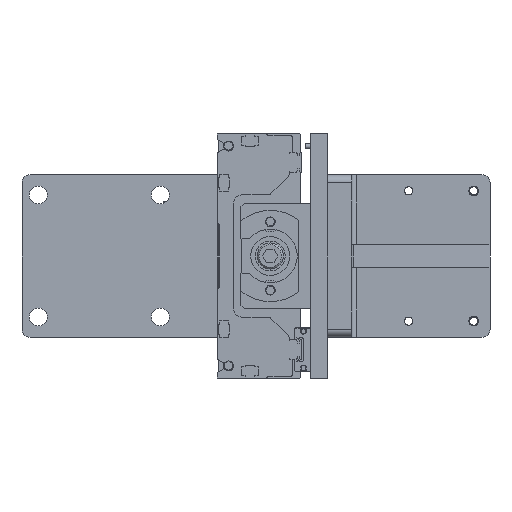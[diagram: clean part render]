
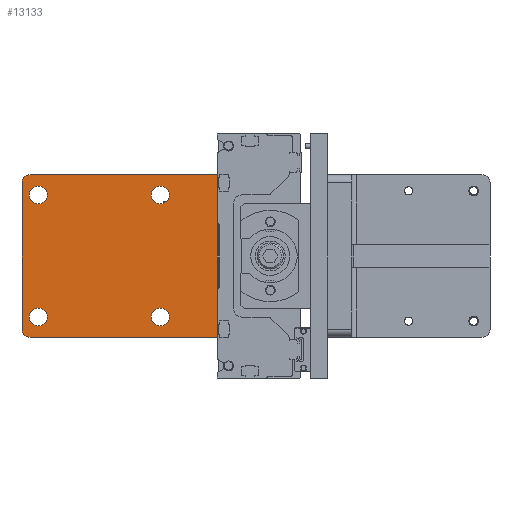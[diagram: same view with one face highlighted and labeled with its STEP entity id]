
A CAD part, front view. The second image highlights one B-rep face of the part: STEP entity #13133.
In plain terms, the highlighted planar face has unit normal (0, -1, 0).
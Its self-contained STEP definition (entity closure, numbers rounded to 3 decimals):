
#183 = VERTEX_POINT ( 'NONE', #29105 ) ;
#198 = LINE ( 'NONE', #31826, #12555 ) ;
#472 = CARTESIAN_POINT ( 'NONE',  ( -44.111, 7.917, 176.833 ) ) ;
#778 = ORIENTED_EDGE ( 'NONE', *, *, #3087, .F. ) ;
#899 = EDGE_LOOP ( 'NONE', ( #28965, #17130 ) ) ;
#1162 = CARTESIAN_POINT ( 'NONE',  ( -44.111, 7.917, 165.833 ) ) ;
#1206 = AXIS2_PLACEMENT_3D ( 'NONE', #7082, #7300, #30235 ) ;
#1543 = EDGE_CURVE ( 'NONE', #25225, #15404, #198, .T. ) ;
#1848 = DIRECTION ( 'NONE',  ( 0., 1., 0. ) ) ;
#1888 = CARTESIAN_POINT ( 'NONE',  ( -54.111, 7.917, 163.833 ) ) ;
#1990 = VERTEX_POINT ( 'NONE', #26850 ) ;
#2746 = DIRECTION ( 'NONE',  ( 0., -1., 0. ) ) ;
#3087 = EDGE_CURVE ( 'NONE', #19202, #1990, #14899, .T. ) ;
#3443 = DIRECTION ( 'NONE',  ( 0., 1., 0. ) ) ;
#3452 = CARTESIAN_POINT ( 'NONE',  ( 30.889, 7.917, 165.833 ) ) ;
#3548 = ORIENTED_EDGE ( 'NONE', *, *, #8319, .F. ) ;
#3560 = EDGE_CURVE ( 'NONE', #11545, #18002, #3675, .T. ) ;
#3675 = CIRCLE ( 'NONE', #26015, 5. ) ;
#4361 = LINE ( 'NONE', #7610, #30809 ) ;
#4586 = CARTESIAN_POINT ( 'NONE',  ( -44.111, 7.917, 171.333 ) ) ;
#4842 = CARTESIAN_POINT ( 'NONE',  ( 65.889, 7.917, 158.833 ) ) ;
#5539 = DIRECTION ( 'NONE',  ( 0., -1., 0. ) ) ;
#5926 = VERTEX_POINT ( 'NONE', #3452 ) ;
#6228 = DIRECTION ( 'NONE',  ( 0., -1., 0. ) ) ;
#6897 = EDGE_CURVE ( 'NONE', #15404, #16232, #32446, .T. ) ;
#6993 = DIRECTION ( 'NONE',  ( 0., 0., 1. ) ) ;
#7082 = CARTESIAN_POINT ( 'NONE',  ( 30.889, 7.917, 171.333 ) ) ;
#7139 = EDGE_CURVE ( 'NONE', #16487, #21909, #23599, .T. ) ;
#7208 = VERTEX_POINT ( 'NONE', #1162 ) ;
#7300 = DIRECTION ( 'NONE',  ( 0., -1., 0. ) ) ;
#7610 = CARTESIAN_POINT ( 'NONE',  ( -54.111, 7.917, 258.833 ) ) ;
#8042 = CARTESIAN_POINT ( 'NONE',  ( -44.111, 7.917, 171.333 ) ) ;
#8093 = AXIS2_PLACEMENT_3D ( 'NONE', #32848, #12105, #22624 ) ;
#8261 = EDGE_LOOP ( 'NONE', ( #30343, #18101 ) ) ;
#8319 = EDGE_CURVE ( 'NONE', #9406, #7208, #27520, .T. ) ;
#8520 = AXIS2_PLACEMENT_3D ( 'NONE', #8042, #10705, #23472 ) ;
#8896 = CARTESIAN_POINT ( 'NONE',  ( -44.111, 7.917, 246.333 ) ) ;
#9047 = AXIS2_PLACEMENT_3D ( 'NONE', #8896, #26372, #11463 ) ;
#9406 = VERTEX_POINT ( 'NONE', #472 ) ;
#9443 = CARTESIAN_POINT ( 'NONE',  ( -49.111, 7.917, 253.833 ) ) ;
#9746 = DIRECTION ( 'NONE',  ( 0., -1., 0. ) ) ;
#9779 = EDGE_CURVE ( 'NONE', #18002, #14165, #27816, .T. ) ;
#10010 = DIRECTION ( 'NONE',  ( 0., -1., 0. ) ) ;
#10705 = DIRECTION ( 'NONE',  ( 0., -1., 0. ) ) ;
#10771 = CARTESIAN_POINT ( 'NONE',  ( -49.111, 7.917, 258.833 ) ) ;
#11463 = DIRECTION ( 'NONE',  ( 0., 0., 1. ) ) ;
#11545 = VERTEX_POINT ( 'NONE', #17427 ) ;
#12056 = FACE_OUTER_BOUND ( 'NONE', #31758, .T. ) ;
#12063 = ORIENTED_EDGE ( 'NONE', *, *, #6897, .F. ) ;
#12099 = EDGE_CURVE ( 'NONE', #25225, #14165, #19657, .T. ) ;
#12105 = DIRECTION ( 'NONE',  ( 0., 1., 0. ) ) ;
#12555 = VECTOR ( 'NONE', #13888, 1000. ) ;
#13133 = ADVANCED_FACE ( 'NONE', ( #12056, #24505, #31694, #26076, #28077 ), #22280, .F. ) ;
#13518 = EDGE_CURVE ( 'NONE', #183, #5926, #18398, .T. ) ;
#13888 = DIRECTION ( 'NONE',  ( -1., 0., 0. ) ) ;
#14162 = EDGE_CURVE ( 'NONE', #16232, #11545, #4361, .T. ) ;
#14165 = VERTEX_POINT ( 'NONE', #30639 ) ;
#14899 = CIRCLE ( 'NONE', #9047, 5.5 ) ;
#15370 = DIRECTION ( 'NONE',  ( 0., 0., 1. ) ) ;
#15404 = VERTEX_POINT ( 'NONE', #26556 ) ;
#15420 = ORIENTED_EDGE ( 'NONE', *, *, #3560, .F. ) ;
#16150 = CARTESIAN_POINT ( 'NONE',  ( -49.111, 7.917, 163.833 ) ) ;
#16232 = VERTEX_POINT ( 'NONE', #1888 ) ;
#16454 = DIRECTION ( 'NONE',  ( 0., 0., 1. ) ) ;
#16487 = VERTEX_POINT ( 'NONE', #31737 ) ;
#16595 = AXIS2_PLACEMENT_3D ( 'NONE', #16150, #3443, #29253 ) ;
#17130 = ORIENTED_EDGE ( 'NONE', *, *, #18843, .F. ) ;
#17427 = CARTESIAN_POINT ( 'NONE',  ( -54.111, 7.917, 253.833 ) ) ;
#17802 = CARTESIAN_POINT ( 'NONE',  ( 30.889, 7.917, 246.333 ) ) ;
#17828 = CARTESIAN_POINT ( 'NONE',  ( 65.889, 7.917, 258.833 ) ) ;
#18002 = VERTEX_POINT ( 'NONE', #10771 ) ;
#18101 = ORIENTED_EDGE ( 'NONE', *, *, #7139, .F. ) ;
#18149 = DIRECTION ( 'NONE',  ( 0., 0., 1. ) ) ;
#18398 = CIRCLE ( 'NONE', #1206, 5.5 ) ;
#18843 = EDGE_CURVE ( 'NONE', #5926, #183, #24673, .T. ) ;
#19202 = VERTEX_POINT ( 'NONE', #32726 ) ;
#19580 = CIRCLE ( 'NONE', #32104, 5.5 ) ;
#19657 = LINE ( 'NONE', #17828, #32521 ) ;
#19919 = CARTESIAN_POINT ( 'NONE',  ( 30.889, 7.917, 251.833 ) ) ;
#20099 = DIRECTION ( 'NONE',  ( 0., 0., 1. ) ) ;
#20628 = DIRECTION ( 'NONE',  ( 0., 0., 1. ) ) ;
#20991 = VECTOR ( 'NONE', #25270, 1000. ) ;
#21083 = ORIENTED_EDGE ( 'NONE', *, *, #12099, .T. ) ;
#21205 = AXIS2_PLACEMENT_3D ( 'NONE', #4586, #9746, #24745 ) ;
#21411 = CARTESIAN_POINT ( 'NONE',  ( -44.111, 7.917, 246.333 ) ) ;
#21471 = EDGE_CURVE ( 'NONE', #21909, #16487, #25322, .T. ) ;
#21909 = VERTEX_POINT ( 'NONE', #19919 ) ;
#22280 = PLANE ( 'NONE',  #8093 ) ;
#22624 = DIRECTION ( 'NONE',  ( 0., 0., 1. ) ) ;
#22852 = AXIS2_PLACEMENT_3D ( 'NONE', #17802, #2746, #20628 ) ;
#22855 = EDGE_CURVE ( 'NONE', #1990, #19202, #19580, .T. ) ;
#23333 = CARTESIAN_POINT ( 'NONE',  ( 30.889, 7.917, 171.333 ) ) ;
#23472 = DIRECTION ( 'NONE',  ( 0., 0., 1. ) ) ;
#23599 = CIRCLE ( 'NONE', #22852, 5.5 ) ;
#24120 = EDGE_LOOP ( 'NONE', ( #3548, #32987 ) ) ;
#24505 = FACE_BOUND ( 'NONE', #899, .T. ) ;
#24673 = CIRCLE ( 'NONE', #32468, 5.5 ) ;
#24745 = DIRECTION ( 'NONE',  ( 0., 0., 1. ) ) ;
#25225 = VERTEX_POINT ( 'NONE', #4842 ) ;
#25270 = DIRECTION ( 'NONE',  ( 1., 0., 0. ) ) ;
#25322 = CIRCLE ( 'NONE', #27591, 5.5 ) ;
#26015 = AXIS2_PLACEMENT_3D ( 'NONE', #9443, #1848, #6993 ) ;
#26076 = FACE_BOUND ( 'NONE', #24120, .T. ) ;
#26372 = DIRECTION ( 'NONE',  ( 0., -1., 0. ) ) ;
#26556 = CARTESIAN_POINT ( 'NONE',  ( -49.111, 7.917, 158.833 ) ) ;
#26636 = ORIENTED_EDGE ( 'NONE', *, *, #1543, .F. ) ;
#26850 = CARTESIAN_POINT ( 'NONE',  ( -44.111, 7.917, 240.833 ) ) ;
#27520 = CIRCLE ( 'NONE', #8520, 5.5 ) ;
#27591 = AXIS2_PLACEMENT_3D ( 'NONE', #31172, #5539, #30723 ) ;
#27816 = LINE ( 'NONE', #32791, #20991 ) ;
#27969 = EDGE_LOOP ( 'NONE', ( #778, #30658 ) ) ;
#28077 = FACE_BOUND ( 'NONE', #27969, .T. ) ;
#28965 = ORIENTED_EDGE ( 'NONE', *, *, #13518, .F. ) ;
#29105 = CARTESIAN_POINT ( 'NONE',  ( 30.889, 7.917, 176.833 ) ) ;
#29253 = DIRECTION ( 'NONE',  ( 0., 0., 1. ) ) ;
#30235 = DIRECTION ( 'NONE',  ( 0., 0., 1. ) ) ;
#30343 = ORIENTED_EDGE ( 'NONE', *, *, #21471, .F. ) ;
#30639 = CARTESIAN_POINT ( 'NONE',  ( 65.889, 7.917, 258.833 ) ) ;
#30658 = ORIENTED_EDGE ( 'NONE', *, *, #22855, .F. ) ;
#30723 = DIRECTION ( 'NONE',  ( 0., 0., 1. ) ) ;
#30809 = VECTOR ( 'NONE', #20099, 1000. ) ;
#31172 = CARTESIAN_POINT ( 'NONE',  ( 30.889, 7.917, 246.333 ) ) ;
#31694 = FACE_BOUND ( 'NONE', #8261, .T. ) ;
#31737 = CARTESIAN_POINT ( 'NONE',  ( 30.889, 7.917, 240.833 ) ) ;
#31758 = EDGE_LOOP ( 'NONE', ( #15420, #33116, #12063, #26636, #21083, #32562 ) ) ;
#31826 = CARTESIAN_POINT ( 'NONE',  ( -54.111, 7.917, 158.833 ) ) ;
#32104 = AXIS2_PLACEMENT_3D ( 'NONE', #21411, #6228, #16454 ) ;
#32446 = CIRCLE ( 'NONE', #16595, 5. ) ;
#32468 = AXIS2_PLACEMENT_3D ( 'NONE', #23333, #10010, #18149 ) ;
#32521 = VECTOR ( 'NONE', #15370, 1000. ) ;
#32562 = ORIENTED_EDGE ( 'NONE', *, *, #9779, .F. ) ;
#32726 = CARTESIAN_POINT ( 'NONE',  ( -44.111, 7.917, 251.833 ) ) ;
#32791 = CARTESIAN_POINT ( 'NONE',  ( 65.889, 7.917, 258.833 ) ) ;
#32848 = CARTESIAN_POINT ( 'NONE',  ( -54.111, 7.917, 258.833 ) ) ;
#32987 = ORIENTED_EDGE ( 'NONE', *, *, #33058, .F. ) ;
#33042 = CIRCLE ( 'NONE', #21205, 5.5 ) ;
#33058 = EDGE_CURVE ( 'NONE', #7208, #9406, #33042, .T. ) ;
#33116 = ORIENTED_EDGE ( 'NONE', *, *, #14162, .F. ) ;
